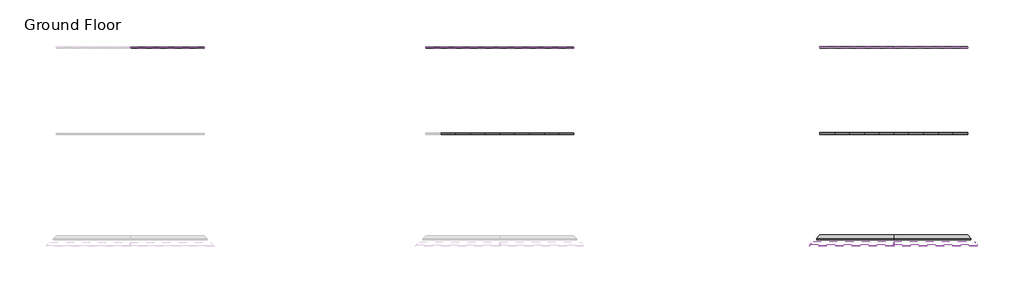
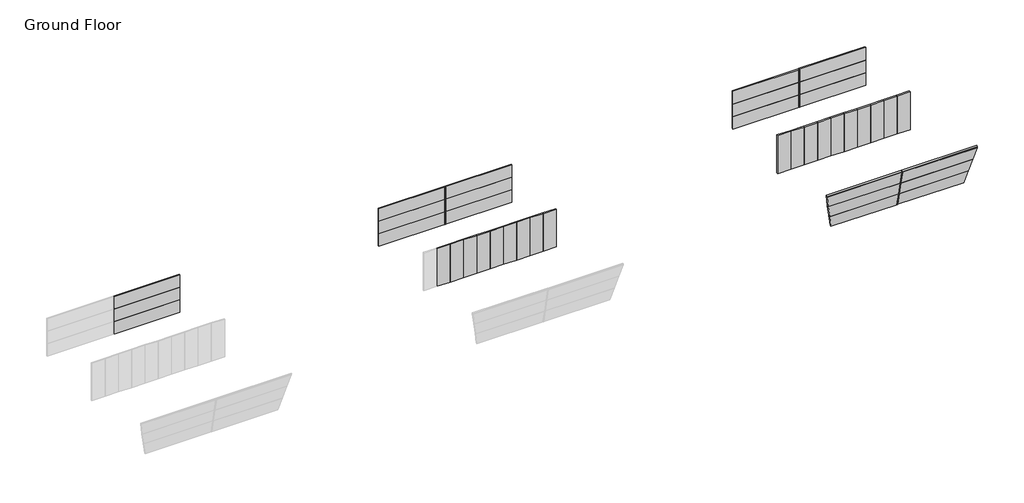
# One storey, part 2 of 9: 42 plates, 10 members.
"""IFC4 building model written with IfcOpenShell, lengths in millimetres."""

from ifc_helpers import new_model, si_unit, origin, place, context, project, spatial, transform, mapped, element, save
from components import rectangular_mullion_pi_mullion_20gap_50depth_70width_142a5764, rectangular_mullion_pi_mullion_20gap_50depth_70width_9113199f, rectangular_mullion_pi_mullion_20gap_50depth_70width_d0ed6173, system_panel_78934fff, system_panel_36b0335f, system_panel_fa75fbb7, system_panel_98891a92, system_panel_35f9bc8d, system_panel_23bc3fd8, system_panel_eca249a8, system_panel_f23bcce6, system_panel_79f063a0, system_panel_aa546842, system_panel_5c141952, system_panel_48e39383, system_panel_2c57112f

model = new_model("IFC4")

# Units and contexts
model_context = context("Model", 3, world=origin())
ifc_project = project(units=[si_unit("LENGTHUNIT", "METRE", prefix="MILLI")], contexts=[model_context])

# Site, building, storey
site = spatial("IfcSite", under=ifc_project)
building = spatial("IfcBuilding", under=site)
storey = spatial("IfcBuildingStorey", under=building, Name="Ground Floor", Elevation=0.0)

# Members
placement = place(None, origin())
rectangular_mullion_pi_mullion_20gap_50depth_70width_shape = rectangular_mullion_pi_mullion_20gap_50depth_70width_142a5764(model_context)
element("IfcMember", 1, ObjectType="Rectangular Mullion : PI-Mullion - 20Gap-50Depth-70Width", at=placement, inside=storey, context=model_context, shape_type="MappedRepresentation", body=[
    mapped(rectangular_mullion_pi_mullion_20gap_50depth_70width_shape, transform((91629.2463003, 1262.9233771, 3600.0), x_axis=(-1.0, 0.0, 0.0), y_axis=(0.0, -0.978268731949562, -0.20734099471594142), z_axis=(0.0, -0.20734099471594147, 0.9782687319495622))),
])
rectangular_mullion_pi_mullion_20gap_50depth_70width_2_shape = rectangular_mullion_pi_mullion_20gap_50depth_70width_9113199f(model_context)
element("IfcMember", 2, ObjectType="Rectangular Mullion : PI-Mullion - 20Gap-50Depth-70Width", at=placement, inside=storey, context=model_context, shape_type="MappedRepresentation", body=[
    mapped(rectangular_mullion_pi_mullion_20gap_50depth_70width_2_shape, transform((91629.2463003, 1777.1229116, 1173.9224783), x_axis=(-1.0, 0.0, 0.0), y_axis=(0.0, -0.978268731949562, -0.20734099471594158), z_axis=(0.0, -0.20734099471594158, 0.978268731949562))),
])
element("IfcMember", 3, ObjectType="Rectangular Mullion : PI-Mullion - 20Gap-50Depth-70Width", at=placement, inside=storey, context=model_context, shape_type="MappedRepresentation", body=[
    mapped(rectangular_mullion_pi_mullion_20gap_50depth_70width_2_shape, transform((91629.2463003, 1528.313718, 2347.8449567), x_axis=(-1.0, 0.0, 0.0), y_axis=(0.0, -0.978268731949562, -0.2073409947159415), z_axis=(0.0, -0.2073409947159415, 0.978268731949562))),
])
element("IfcMember", 4, ObjectType="Rectangular Mullion : PI-Mullion - 20Gap-50Depth-70Width", at=placement, inside=storey, context=model_context, shape_type="MappedRepresentation", body=[
    mapped(rectangular_mullion_pi_mullion_20gap_50depth_70width_2_shape, transform((91629.2463003, 1279.5045243, 3521.767435), x_axis=(-1.0, 0.0, 0.0), y_axis=(0.0, -0.978268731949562, -0.20734099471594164), z_axis=(0.0, -0.2073409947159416, 0.9782687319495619))),
])
rectangular_mullion_pi_mullion_20gap_50depth_70width_3_shape = rectangular_mullion_pi_mullion_20gap_50depth_70width_d0ed6173(model_context)
element("IfcMember", 5, ObjectType="Rectangular Mullion : PI-Mullion - 20Gap-50Depth-70Width", at=placement, inside=storey, context=model_context, shape_type="MappedRepresentation", body=[
    mapped(rectangular_mullion_pi_mullion_20gap_50depth_70width_3_shape, transform((59629.2463003, 17365.9321053, 0.0), x_axis=(1.0, 0.0, 0.0), y_axis=(0.0, -1.0, 0.0), z_axis=(0.0, 0.0, -1.0))),
])
element("IfcMember", 6, ObjectType="Rectangular Mullion : PI-Mullion - 20Gap-50Depth-70Width", at=placement, inside=storey, context=model_context, shape_type="MappedRepresentation", body=[
    mapped(rectangular_mullion_pi_mullion_20gap_50depth_70width_3_shape, transform((91629.2463003, 17365.9321053, 0.0), x_axis=(1.0, 0.0, 0.0), y_axis=(0.0, -1.0, 0.0), z_axis=(0.0, 0.0, -1.0))),
])
element("IfcMember", 7, ObjectType="Rectangular Mullion : PI-Mullion - 20Gap-50Depth-70Width", at=placement, inside=storey, context=model_context, shape_type="MappedRepresentation", body=[
    mapped(rectangular_mullion_pi_mullion_20gap_50depth_70width_3_shape, transform((59629.2463003, 17365.9321053, 1200.0), x_axis=(1.0, 0.0, 0.0), y_axis=(0.0, -1.0, 0.0), z_axis=(0.0, 0.0, -1.0))),
])
element("IfcMember", 8, ObjectType="Rectangular Mullion : PI-Mullion - 20Gap-50Depth-70Width", at=placement, inside=storey, context=model_context, shape_type="MappedRepresentation", body=[
    mapped(rectangular_mullion_pi_mullion_20gap_50depth_70width_3_shape, transform((91629.2463003, 17365.9321053, 1200.0), x_axis=(1.0, 0.0, 0.0), y_axis=(0.0, -1.0, 0.0), z_axis=(0.0, 0.0, -1.0))),
])
element("IfcMember", 9, ObjectType="Rectangular Mullion : PI-Mullion - 20Gap-50Depth-70Width", at=placement, inside=storey, context=model_context, shape_type="MappedRepresentation", body=[
    mapped(rectangular_mullion_pi_mullion_20gap_50depth_70width_3_shape, transform((59629.2463003, 17365.9321053, 2400.0), x_axis=(1.0, 0.0, 0.0), y_axis=(0.0, -1.0, 0.0), z_axis=(0.0, 0.0, -1.0))),
])
element("IfcMember", 10, ObjectType="Rectangular Mullion : PI-Mullion - 20Gap-50Depth-70Width", at=placement, inside=storey, context=model_context, shape_type="MappedRepresentation", body=[
    mapped(rectangular_mullion_pi_mullion_20gap_50depth_70width_3_shape, transform((91629.2463003, 17365.9321053, 2400.0), x_axis=(1.0, 0.0, 0.0), y_axis=(0.0, -1.0, 0.0), z_axis=(0.0, 0.0, -1.0))),
])

# Plates
system_panel_shape = system_panel_78934fff(model_context)
element("IfcPlate", 11, ObjectType="System Panel : Equitilt_FlameGuard_100mm_Plain_Surfmist", at=placement, inside=storey, context=model_context, shape_type="MappedRepresentation", body=[
    mapped(system_panel_shape, transform((56629.2463003, 10365.9321053, 0.0), x_axis=(1.0, 0.0, 0.0), y_axis=(0.0, 1.0, 0.0), z_axis=(0.0, 0.0, 1.0))),
])
element("IfcPlate", 12, ObjectType="System Panel : Equitilt_FlameGuard_100mm_Plain_Surfmist", at=placement, inside=storey, context=model_context, shape_type="MappedRepresentation", body=[
    mapped(system_panel_shape, transform((57829.2463003, 10365.9321053, 0.0), x_axis=(1.0, 0.0, 0.0), y_axis=(0.0, 1.0, 0.0), z_axis=(0.0, 0.0, 1.0))),
])
element("IfcPlate", 13, ObjectType="System Panel : Equitilt_FlameGuard_100mm_Plain_Surfmist", at=placement, inside=storey, context=model_context, shape_type="MappedRepresentation", body=[
    mapped(system_panel_shape, transform((59029.2463003, 10365.9321053, 0.0), x_axis=(1.0, 0.0, 0.0), y_axis=(0.0, 1.0, 0.0), z_axis=(0.0, 0.0, 1.0))),
])
element("IfcPlate", 14, ObjectType="System Panel : Equitilt_FlameGuard_100mm_Plain_Surfmist", at=placement, inside=storey, context=model_context, shape_type="MappedRepresentation", body=[
    mapped(system_panel_shape, transform((60229.2463003, 10365.9321053, 0.0), x_axis=(1.0, 0.0, 0.0), y_axis=(0.0, 1.0, 0.0), z_axis=(0.0, 0.0, 1.0))),
])
element("IfcPlate", 15, ObjectType="System Panel : Equitilt_FlameGuard_100mm_Plain_Surfmist", at=placement, inside=storey, context=model_context, shape_type="MappedRepresentation", body=[
    mapped(system_panel_shape, transform((61429.2463003, 10365.9321053, 0.0), x_axis=(1.0, 0.0, 0.0), y_axis=(0.0, 1.0, 0.0), z_axis=(0.0, 0.0, 1.0))),
])
element("IfcPlate", 16, ObjectType="System Panel : Equitilt_FlameGuard_100mm_Plain_Surfmist", at=placement, inside=storey, context=model_context, shape_type="MappedRepresentation", body=[
    mapped(system_panel_shape, transform((62629.2463003, 10365.9321053, 0.0), x_axis=(1.0, 0.0, 0.0), y_axis=(0.0, 1.0, 0.0), z_axis=(0.0, 0.0, 1.0))),
])
element("IfcPlate", 17, ObjectType="System Panel : Equitilt_FlameGuard_100mm_Plain_Surfmist", at=placement, inside=storey, context=model_context, shape_type="MappedRepresentation", body=[
    mapped(system_panel_shape, transform((63829.2463003, 10365.9321053, 0.0), x_axis=(1.0, 0.0, 0.0), y_axis=(0.0, 1.0, 0.0), z_axis=(0.0, 0.0, 1.0))),
])
element("IfcPlate", 18, ObjectType="System Panel : Equitilt_FlameGuard_100mm_Plain_Surfmist", at=placement, inside=storey, context=model_context, shape_type="MappedRepresentation", body=[
    mapped(system_panel_shape, transform((65029.2463003, 10365.9321053, 0.0), x_axis=(1.0, 0.0, 0.0), y_axis=(0.0, 1.0, 0.0), z_axis=(0.0, 0.0, 1.0))),
])
element("IfcPlate", 19, ObjectType="System Panel : Equitilt_FlameGuard_100mm_Plain_Surfmist", at=placement, inside=storey, context=model_context, shape_type="MappedRepresentation", body=[
    mapped(system_panel_shape, transform((55429.2463003, 10365.9321053, 0.0), x_axis=(1.0, 0.0, 0.0), y_axis=(0.0, 1.0, 0.0), z_axis=(0.0, 0.0, 1.0))),
])
system_panel_2_shape = system_panel_36b0335f(model_context)
element("IfcPlate", 20, ObjectType="System Panel : Equitilt_FlameGuard_150mm_Plain_Surfmist", at=placement, inside=storey, context=model_context, shape_type="MappedRepresentation", body=[
    mapped(system_panel_2_shape, transform((86229.2463003, 10365.9321053, 0.0), x_axis=(1.0, 0.0, 0.0), y_axis=(0.0, 1.0, 0.0), z_axis=(0.0, 0.0, 1.0))),
])
element("IfcPlate", 21, ObjectType="System Panel : Equitilt_FlameGuard_150mm_Plain_Surfmist", at=placement, inside=storey, context=model_context, shape_type="MappedRepresentation", body=[
    mapped(system_panel_2_shape, transform((88629.2463003, 10365.9321053, 0.0), x_axis=(1.0, 0.0, 0.0), y_axis=(0.0, 1.0, 0.0), z_axis=(0.0, 0.0, 1.0))),
])
element("IfcPlate", 22, ObjectType="System Panel : Equitilt_FlameGuard_150mm_Plain_Surfmist", at=placement, inside=storey, context=model_context, shape_type="MappedRepresentation", body=[
    mapped(system_panel_2_shape, transform((89829.2463003, 10365.9321053, 0.0), x_axis=(1.0, 0.0, 0.0), y_axis=(0.0, 1.0, 0.0), z_axis=(0.0, 0.0, 1.0))),
])
element("IfcPlate", 23, ObjectType="System Panel : Equitilt_FlameGuard_150mm_Plain_Surfmist", at=placement, inside=storey, context=model_context, shape_type="MappedRepresentation", body=[
    mapped(system_panel_2_shape, transform((91029.2463003, 10365.9321053, 0.0), x_axis=(1.0, 0.0, 0.0), y_axis=(0.0, 1.0, 0.0), z_axis=(0.0, 0.0, 1.0))),
])
element("IfcPlate", 24, ObjectType="System Panel : Equitilt_FlameGuard_150mm_Plain_Surfmist", at=placement, inside=storey, context=model_context, shape_type="MappedRepresentation", body=[
    mapped(system_panel_2_shape, transform((92229.2463003, 10365.9321053, 0.0), x_axis=(1.0, 0.0, 0.0), y_axis=(0.0, 1.0, 0.0), z_axis=(0.0, 0.0, 1.0))),
])
element("IfcPlate", 25, ObjectType="System Panel : Equitilt_FlameGuard_150mm_Plain_Surfmist", at=placement, inside=storey, context=model_context, shape_type="MappedRepresentation", body=[
    mapped(system_panel_2_shape, transform((93429.2463003, 10365.9321053, 0.0), x_axis=(1.0, 0.0, 0.0), y_axis=(0.0, 1.0, 0.0), z_axis=(0.0, 0.0, 1.0))),
])
element("IfcPlate", 26, ObjectType="System Panel : Equitilt_FlameGuard_150mm_Plain_Surfmist", at=placement, inside=storey, context=model_context, shape_type="MappedRepresentation", body=[
    mapped(system_panel_2_shape, transform((94629.2463003, 10365.9321053, 0.0), x_axis=(1.0, 0.0, 0.0), y_axis=(0.0, 1.0, 0.0), z_axis=(0.0, 0.0, 1.0))),
])
element("IfcPlate", 27, ObjectType="System Panel : Equitilt_FlameGuard_150mm_Plain_Surfmist", at=placement, inside=storey, context=model_context, shape_type="MappedRepresentation", body=[
    mapped(system_panel_2_shape, transform((95829.2463003, 10365.9321053, 0.0), x_axis=(1.0, 0.0, 0.0), y_axis=(0.0, 1.0, 0.0), z_axis=(0.0, 0.0, 1.0))),
])
element("IfcPlate", 28, ObjectType="System Panel : Equitilt_FlameGuard_150mm_Plain_Surfmist", at=placement, inside=storey, context=model_context, shape_type="MappedRepresentation", body=[
    mapped(system_panel_2_shape, transform((97029.2463003, 10365.9321053, 0.0), x_axis=(1.0, 0.0, 0.0), y_axis=(0.0, 1.0, 0.0), z_axis=(0.0, 0.0, 1.0))),
])
element("IfcPlate", 29, ObjectType="System Panel : Equitilt_FlameGuard_150mm_Plain_Surfmist", at=placement, inside=storey, context=model_context, shape_type="MappedRepresentation", body=[
    mapped(system_panel_2_shape, transform((87429.2463003, 10365.9321053, 0.0), x_axis=(1.0, 0.0, 0.0), y_axis=(0.0, 1.0, 0.0), z_axis=(0.0, 0.0, 1.0))),
])
system_panel_3_shape = system_panel_fa75fbb7(model_context)
element("IfcPlate", 30, ObjectType="System Panel : Equitilt_FlameGuard_150mm_Plain_Surfmist", at=placement, inside=storey, context=model_context, shape_type="MappedRepresentation", body=[
    mapped(system_panel_3_shape, transform((94764.6821312, 2025.9321053, 0.0), x_axis=(-1.0, 0.0, 0.0), y_axis=(0.0, -0.978268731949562, -0.20734099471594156), z_axis=(0.0, -0.20734099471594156, 0.978268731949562))),
])
system_panel_4_shape = system_panel_98891a92(model_context)
element("IfcPlate", 31, ObjectType="System Panel : Equitilt_FlameGuard_150mm_Plain_Surfmist", at=placement, inside=storey, context=model_context, shape_type="MappedRepresentation", body=[
    mapped(system_panel_4_shape, transform((94895.1179621, 1777.1229116, 1173.9224783), x_axis=(-1.0, 0.0, 0.0), y_axis=(0.0, -0.978268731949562, -0.20734099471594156), z_axis=(0.0, -0.20734099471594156, 0.978268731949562))),
])
system_panel_5_shape = system_panel_35f9bc8d(model_context)
element("IfcPlate", 32, ObjectType="System Panel : Equitilt_FlameGuard_150mm_Plain_Surfmist", at=placement, inside=storey, context=model_context, shape_type="MappedRepresentation", body=[
    mapped(system_panel_5_shape, transform((95025.553793, 1528.313718, 2347.8449567), x_axis=(-1.0, 0.0, 0.0), y_axis=(0.0, -0.978268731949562, -0.20734099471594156), z_axis=(0.0, -0.20734099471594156, 0.978268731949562))),
])
system_panel_6_shape = system_panel_23bc3fd8(model_context)
element("IfcPlate", 33, ObjectType="System Panel : Equitilt_FlameGuard_150mm_Plain_Surfmist", at=placement, inside=storey, context=model_context, shape_type="MappedRepresentation", body=[
    mapped(system_panel_6_shape, transform((95034.2463003, 1279.5045243, 3521.767435), x_axis=(-1.0, 0.0, 0.0), y_axis=(0.0, -0.978268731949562, -0.20734099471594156), z_axis=(0.0, -0.20734099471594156, 0.978268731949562))),
])
system_panel_7_shape = system_panel_eca249a8(model_context)
element("IfcPlate", 34, ObjectType="System Panel : Equitilt_FlameGuard_150mm_Plain_Surfmist", at=placement, inside=storey, context=model_context, shape_type="MappedRepresentation", body=[
    mapped(system_panel_7_shape, transform((88493.8104693, 2025.9321053, 0.0), x_axis=(-1.0, 0.0, 0.0), y_axis=(0.0, -0.978268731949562, -0.20734099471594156), z_axis=(0.0, -0.20734099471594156, 0.978268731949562))),
])
system_panel_8_shape = system_panel_f23bcce6(model_context)
element("IfcPlate", 35, ObjectType="System Panel : Equitilt_FlameGuard_150mm_Plain_Surfmist", at=placement, inside=storey, context=model_context, shape_type="MappedRepresentation", body=[
    mapped(system_panel_8_shape, transform((88363.3746384, 1777.1229116, 1173.9224783), x_axis=(-1.0, 0.0, 0.0), y_axis=(0.0, -0.978268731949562, -0.20734099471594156), z_axis=(0.0, -0.20734099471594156, 0.978268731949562))),
])
system_panel_9_shape = system_panel_79f063a0(model_context)
element("IfcPlate", 36, ObjectType="System Panel : Equitilt_FlameGuard_150mm_Plain_Surfmist", at=placement, inside=storey, context=model_context, shape_type="MappedRepresentation", body=[
    mapped(system_panel_9_shape, transform((88232.9388075, 1528.313718, 2347.8449567), x_axis=(-1.0, 0.0, 0.0), y_axis=(0.0, -0.978268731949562, -0.20734099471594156), z_axis=(0.0, -0.20734099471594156, 0.978268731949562))),
])
system_panel_10_shape = system_panel_aa546842(model_context)
element("IfcPlate", 37, ObjectType="System Panel : Equitilt_FlameGuard_150mm_Plain_Surfmist", at=placement, inside=storey, context=model_context, shape_type="MappedRepresentation", body=[
    mapped(system_panel_10_shape, transform((88224.2463003, 1279.5045243, 3521.767435), x_axis=(-1.0, 0.0, 0.0), y_axis=(0.0, -0.978268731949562, -0.20734099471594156), z_axis=(0.0, -0.20734099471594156, 0.978268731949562))),
])
system_panel_11_shape = system_panel_5c141952(model_context)
element("IfcPlate", 38, ObjectType="System Panel : Equitilt_FlameGuard_75mm_Plain_Surfmist", at=placement, inside=storey, context=model_context, shape_type="MappedRepresentation", body=[
    mapped(system_panel_11_shape, transform((32634.2463003, 17365.9321053, 0.0), x_axis=(1.0, 0.0, 0.0), y_axis=(0.0, 1.0, 0.0), z_axis=(0.0, 0.0, 1.0))),
])
element("IfcPlate", 39, ObjectType="System Panel : Equitilt_FlameGuard_75mm_Plain_Surfmist", at=placement, inside=storey, context=model_context, shape_type="MappedRepresentation", body=[
    mapped(system_panel_11_shape, transform((32634.2463003, 17365.9321053, 1200.0), x_axis=(1.0, 0.0, 0.0), y_axis=(0.0, 1.0, 0.0), z_axis=(0.0, 0.0, 1.0))),
])
element("IfcPlate", 40, ObjectType="System Panel : Equitilt_FlameGuard_75mm_Plain_Surfmist", at=placement, inside=storey, context=model_context, shape_type="MappedRepresentation", body=[
    mapped(system_panel_11_shape, transform((32634.2463003, 17365.9321053, 2400.0), x_axis=(1.0, 0.0, 0.0), y_axis=(0.0, 1.0, 0.0), z_axis=(0.0, 0.0, 1.0))),
])
system_panel_12_shape = system_panel_48e39383(model_context)
element("IfcPlate", 41, ObjectType="System Panel : Equitilt_FlameGuard_100mm_Plain_Surfmist", at=placement, inside=storey, context=model_context, shape_type="MappedRepresentation", body=[
    mapped(system_panel_12_shape, transform((56624.2463003, 17365.9321053, 0.0), x_axis=(1.0, 0.0, 0.0), y_axis=(0.0, 1.0, 0.0), z_axis=(0.0, 0.0, 1.0))),
])
element("IfcPlate", 42, ObjectType="System Panel : Equitilt_FlameGuard_100mm_Plain_Surfmist", at=placement, inside=storey, context=model_context, shape_type="MappedRepresentation", body=[
    mapped(system_panel_12_shape, transform((56624.2463003, 17365.9321053, 1200.0), x_axis=(1.0, 0.0, 0.0), y_axis=(0.0, 1.0, 0.0), z_axis=(0.0, 0.0, 1.0))),
])
element("IfcPlate", 43, ObjectType="System Panel : Equitilt_FlameGuard_100mm_Plain_Surfmist", at=placement, inside=storey, context=model_context, shape_type="MappedRepresentation", body=[
    mapped(system_panel_12_shape, transform((56624.2463003, 17365.9321053, 2400.0), x_axis=(1.0, 0.0, 0.0), y_axis=(0.0, 1.0, 0.0), z_axis=(0.0, 0.0, 1.0))),
])
element("IfcPlate", 44, ObjectType="System Panel : Equitilt_FlameGuard_100mm_Plain_Surfmist", at=placement, inside=storey, context=model_context, shape_type="MappedRepresentation", body=[
    mapped(system_panel_12_shape, transform((62634.2463003, 17365.9321053, 0.0), x_axis=(1.0, 0.0, 0.0), y_axis=(0.0, 1.0, 0.0), z_axis=(0.0, 0.0, 1.0))),
])
element("IfcPlate", 45, ObjectType="System Panel : Equitilt_FlameGuard_100mm_Plain_Surfmist", at=placement, inside=storey, context=model_context, shape_type="MappedRepresentation", body=[
    mapped(system_panel_12_shape, transform((62634.2463003, 17365.9321053, 1200.0), x_axis=(1.0, 0.0, 0.0), y_axis=(0.0, 1.0, 0.0), z_axis=(0.0, 0.0, 1.0))),
])
element("IfcPlate", 46, ObjectType="System Panel : Equitilt_FlameGuard_100mm_Plain_Surfmist", at=placement, inside=storey, context=model_context, shape_type="MappedRepresentation", body=[
    mapped(system_panel_12_shape, transform((62634.2463003, 17365.9321053, 2400.0), x_axis=(1.0, 0.0, 0.0), y_axis=(0.0, 1.0, 0.0), z_axis=(0.0, 0.0, 1.0))),
])
system_panel_13_shape = system_panel_2c57112f(model_context)
element("IfcPlate", 47, ObjectType="System Panel : Equitilt_FlameGuard_150mm_Plain_Surfmist", at=placement, inside=storey, context=model_context, shape_type="MappedRepresentation", body=[
    mapped(system_panel_13_shape, transform((88624.2463003, 17365.9321053, 0.0), x_axis=(1.0, 0.0, 0.0), y_axis=(0.0, 1.0, 0.0), z_axis=(0.0, 0.0, 1.0))),
])
element("IfcPlate", 48, ObjectType="System Panel : Equitilt_FlameGuard_150mm_Plain_Surfmist", at=placement, inside=storey, context=model_context, shape_type="MappedRepresentation", body=[
    mapped(system_panel_13_shape, transform((88624.2463003, 17365.9321053, 1200.0), x_axis=(1.0, 0.0, 0.0), y_axis=(0.0, 1.0, 0.0), z_axis=(0.0, 0.0, 1.0))),
])
element("IfcPlate", 49, ObjectType="System Panel : Equitilt_FlameGuard_150mm_Plain_Surfmist", at=placement, inside=storey, context=model_context, shape_type="MappedRepresentation", body=[
    mapped(system_panel_13_shape, transform((88624.2463003, 17365.9321053, 2400.0), x_axis=(1.0, 0.0, 0.0), y_axis=(0.0, 1.0, 0.0), z_axis=(0.0, 0.0, 1.0))),
])
element("IfcPlate", 50, ObjectType="System Panel : Equitilt_FlameGuard_150mm_Plain_Surfmist", at=placement, inside=storey, context=model_context, shape_type="MappedRepresentation", body=[
    mapped(system_panel_13_shape, transform((94634.2463003, 17365.9321053, 0.0), x_axis=(1.0, 0.0, 0.0), y_axis=(0.0, 1.0, 0.0), z_axis=(0.0, 0.0, 1.0))),
])
element("IfcPlate", 51, ObjectType="System Panel : Equitilt_FlameGuard_150mm_Plain_Surfmist", at=placement, inside=storey, context=model_context, shape_type="MappedRepresentation", body=[
    mapped(system_panel_13_shape, transform((94634.2463003, 17365.9321053, 1200.0), x_axis=(1.0, 0.0, 0.0), y_axis=(0.0, 1.0, 0.0), z_axis=(0.0, 0.0, 1.0))),
])
element("IfcPlate", 52, ObjectType="System Panel : Equitilt_FlameGuard_150mm_Plain_Surfmist", at=placement, inside=storey, context=model_context, shape_type="MappedRepresentation", body=[
    mapped(system_panel_13_shape, transform((94634.2463003, 17365.9321053, 2400.0), x_axis=(1.0, 0.0, 0.0), y_axis=(0.0, 1.0, 0.0), z_axis=(0.0, 0.0, 1.0))),
])

save(model, "model.ifc")
